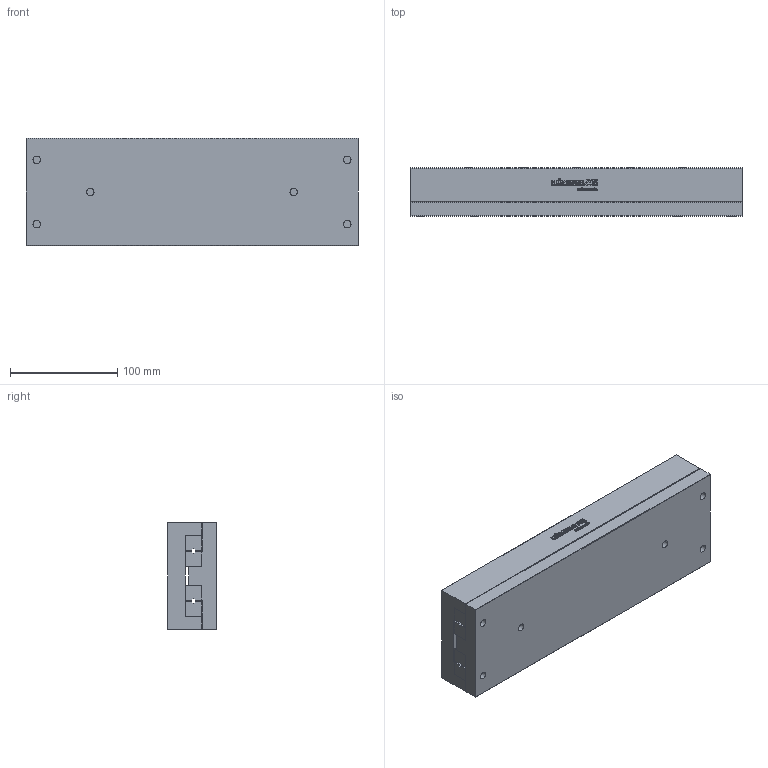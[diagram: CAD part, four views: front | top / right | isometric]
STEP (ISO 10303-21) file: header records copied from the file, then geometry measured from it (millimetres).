
FILE_DESCRIPTION(/* description */ ('STEP AP214'),/* implementation_level */ '2;1');
FILE_NAME(/* name */ 'NK 6-310-B(0)',/* time_stamp */ '2025-04-22T17:50:52+02:00',/* author */ ('License CC BY-ND 4.0'),/* organization */ ('CADENAS'),/* preprocessor_version */ 'ST-DEVELOPER v19.3',/* originating_system */ 'PARTsolutions',/* authorisation */ ' ');
FILE_SCHEMA (('AUTOMOTIVE_DESIGN {1 0 10303 214 3 1 1}'));
Length unit declared in the file: millimetre
Products named in the file (3): NK 6-310-B(0); NK 6-310-B_1; NK 6-310-B_2
Assembly tree (2 placements, depth 2):
  NK 6-310-B(0)
    NK 6-310-B_1
    NK 6-310-B_2
Bounding box: 310 x 45 x 100 mm (x, y, z)
Volume: 1335481.9 mm3; surface area: 220770.5 mm2
Topology: 2 solids, 2 shells, 615 faces, 1706 edges, 1120 vertices
Faces by surface type: cylinder 314, plane 281, cone 20
Full cylindrical faces by diameter (mm): 4.917 x10, 7 x6, 11 x6
Entity records: 19653 total; most frequent: DIRECTION 3548, CARTESIAN_POINT 3382, ORIENTED_EDGE 3308, EDGE_CURVE 1654, AXIS2_PLACEMENT_3D 1276, VERTEX_POINT 1110, LINE 996, VECTOR 996
